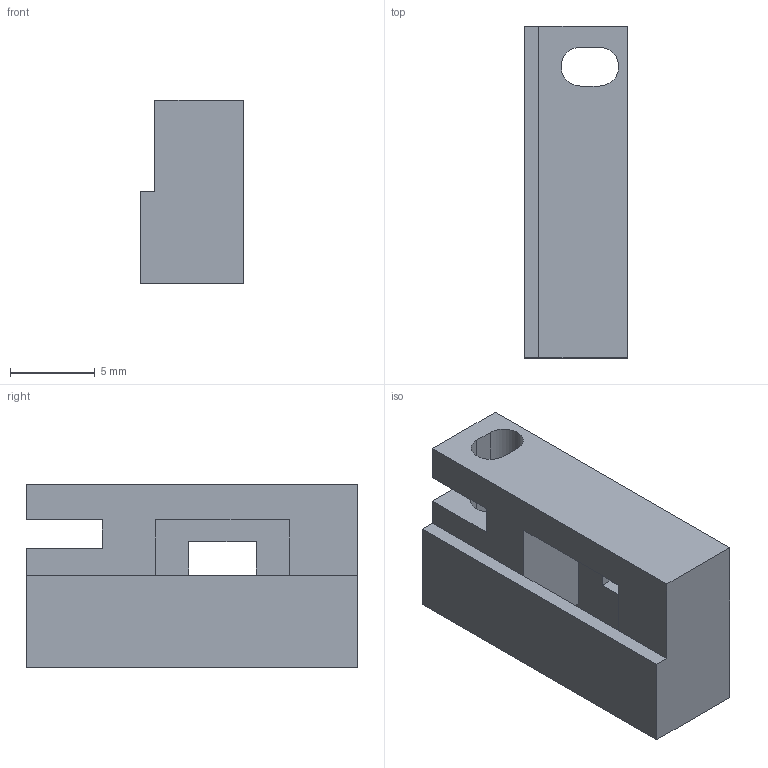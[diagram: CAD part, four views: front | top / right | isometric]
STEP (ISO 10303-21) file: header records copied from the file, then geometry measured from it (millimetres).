
FILE_DESCRIPTION(('Open CASCADE Model'),'2;1');
FILE_NAME('Open CASCADE Shape Model','2026-09-06T11:38:52',('Author'),( 'Open CASCADE'),'Open CASCADE STEP processor 7.7','Open CASCADE 7.7' ,'Unknown');
FILE_SCHEMA(('AUTOMOTIVE_DESIGN { 1 0 10303 214 1 1 1 1 }'));
Length unit declared in the file: millimetre
Products named in the file (1): Open CASCADE STEP translator 7.7 8
Bounding box: 6.1 x 19.6 x 10.85 mm (x, y, z)
Volume: 750.8 mm3; surface area: 1052.5 mm2
Topology: 1 solids, 1 shells, 47 faces, 128 edges, 84 vertices
Faces by surface type: plane 37, cylinder 10
Full cylindrical faces by diameter (mm): 2.6 x2
Entity records: 3168 total; most frequent: CARTESIAN_POINT 600, DIRECTION 468, LINE 316, VECTOR 316, ORIENTED_EDGE 256, PCURVE 256, DEFINITIONAL_REPRESENTATION 256, EDGE_CURVE 128
